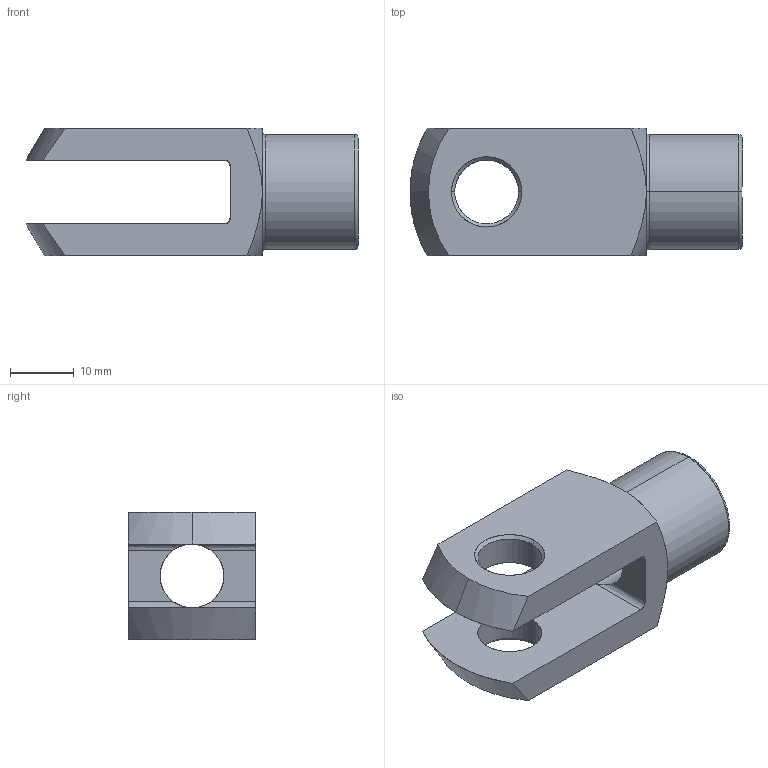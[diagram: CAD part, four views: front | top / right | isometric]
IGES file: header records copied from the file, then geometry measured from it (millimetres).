
Start section: SolidWorks IGES file using analytic representation for surfaces
Global section: file name: C:\Documents and Settings\IANO\My Documents\Wix and Auto CAD Work\CAD Models\Parametric Models\Wix Models\60000\65635_v2\65635_v2_IGES\65635.W0103.igs; native system: SolidWorks 2009; preprocessor: SolidWorks 2009; author: IANO; date: 140117.130524; units: millimetre
Bounding box: 52 x 20 x 20 mm (x, y, z)
Surface area: 5363.2 mm2 (no closed solid volume)
Topology: 0 solids, 0 shells, 39 faces, 592 edges, 592 vertices
Faces by surface type: revolution 25, bspline 14
